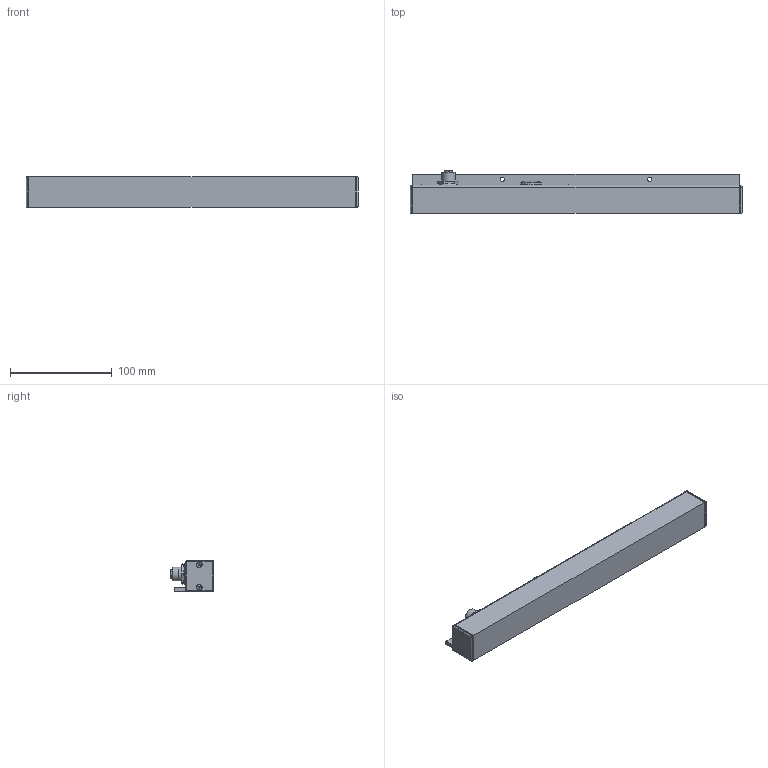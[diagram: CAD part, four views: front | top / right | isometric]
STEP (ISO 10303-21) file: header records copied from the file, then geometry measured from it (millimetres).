
FILE_DESCRIPTION (( 'STEP AP214' ), '1' );
FILE_NAME ('MGSW3200_CAD_v4.STEP', '2020-03-27T21:41:56', ( '' ), ( '' ), 'SwSTEP 2.0', 'SolidWorks 2018', '' );
FILE_SCHEMA (( 'AUTOMOTIVE_DESIGN' ));
Length unit declared in the file: millimetre
Products named in the file (8): PG11_Plug; gasket; 91294A014_BLACK ALLOY STEEL FLAT-HEAD SOCKET CAP SCREW_91294A014; MGSW3200_CAD_v4; CASE_MGS3200_V1; M12-8; COVER_MGSW_V2; ledpipeSLDPRT
Assembly tree (15 placements, depth 2):
  MGSW3200_CAD_v4
    PG11_Plug
    COVER_MGSW_V2  x2
    M12-8
    91294A014_BLACK ALLOY STEEL FLAT-HEAD SOCKET CAP SCREW_91294A014  x4
    ledpipeSLDPRT  x4
    gasket  x2
    CASE_MGS3200_V1
Bounding box: 326.56 x 41.95 x 30 mm (x, y, z)
Volume: 107036.5 mm3; surface area: 90043.7 mm2
Topology: 15 solids, 15 shells, 451 faces, 1163 edges, 788 vertices
Faces by surface type: plane 233, cylinder 120, cone 55, bspline 38, torus 5
Full cylindrical faces by diameter (mm): 1 x4, 1.2 x4, 1.25 x4, 1.6 x4, 2.05 x4, 2.5 x4, 2.7 x4, 3 x8, 3.4 x4, 4 x2, 5 x4, 9.35 x1, 11.3 x1, 13.4 x1, 13.5 x1, 15 x1, 16 x1, 18 x1, 20 x1
Entity records: 13857 total; most frequent: CARTESIAN_POINT 5837, ORIENTED_EDGE 1564, DIRECTION 1355, EDGE_CURVE 782, VERTEX_POINT 580, AXIS2_PLACEMENT_3D 459, LINE 437, VECTOR 437
